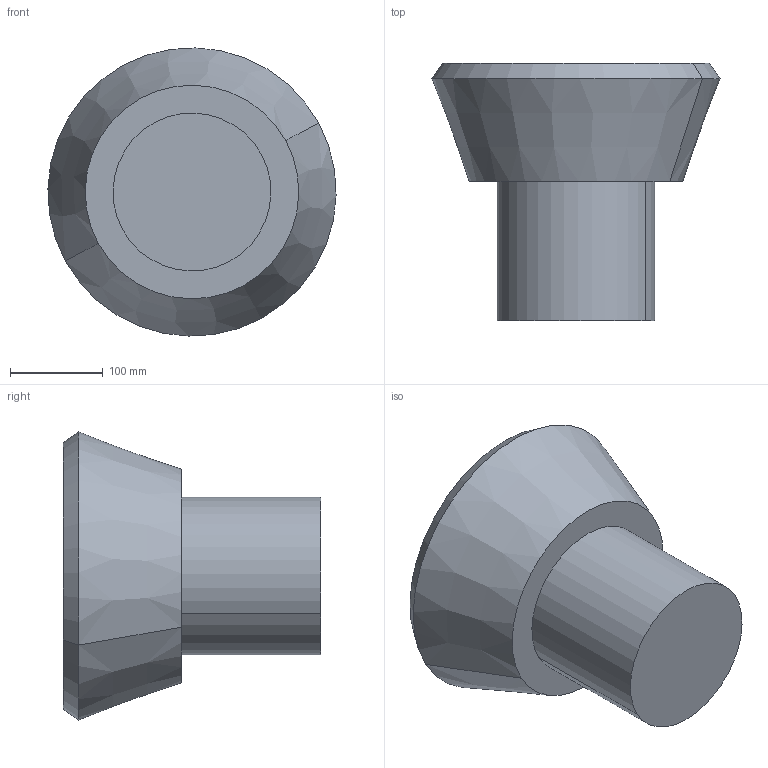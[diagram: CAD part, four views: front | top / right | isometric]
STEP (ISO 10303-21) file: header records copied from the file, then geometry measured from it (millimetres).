
FILE_DESCRIPTION(('CATIA V5 STEP Exchange'),'2;1');
FILE_NAME('C:\_Andres\UNIVERSIDAD\IQS\ASIGNATURAS\DAO\EXF\EXF-15161c\1original\Segura_Sánchez_Ej09-optimiza_v25.stp','2016-03-04T21:55:31+00:00',('none'),('none'),'CATIA Version 5 Release 20 SP 1 (IN-10)','CATIA V5 STEP AP203','none');
FILE_SCHEMA(('CONFIG_CONTROL_DESIGN'));
Length unit declared in the file: millimetre
Products named in the file (1): Segura_Sánchez_Ej09-optimiza_v25
Bounding box: 310.33 x 276.86 x 310.33 mm (x, y, z)
Volume: 10918283.7 mm3; surface area: 309547.4 mm2
Topology: 1 solids, 2 shells, 13 faces, 22 edges, 14 vertices
Faces by surface type: plane 5, cylinder 4, cone 4
Entity records: 324 total; most frequent: CARTESIAN_POINT 47, ORIENTED_EDGE 44, DIRECTION 42, AXIS2_PLACEMENT_3D 25, EDGE_CURVE 22, CIRCLE 14, EDGE_LOOP 14, VERTEX_POINT 14
